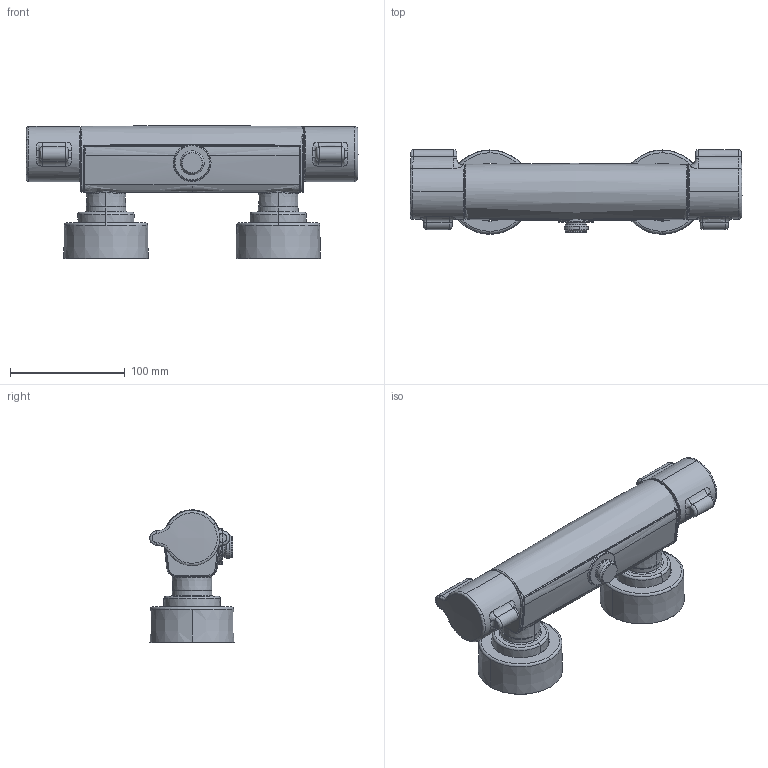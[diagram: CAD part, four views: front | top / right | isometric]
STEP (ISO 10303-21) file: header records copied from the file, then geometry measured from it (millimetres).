
FILE_DESCRIPTION (( 'STEP AP203' ), '1' );
FILE_NAME ('5660(2020).STEP', '2019-07-25T11:30:29', ( '' ), ( '' ), 'SwSTEP 2.0', 'SolidWorks 2016', '' );
FILE_SCHEMA (( 'CONFIG_CONTROL_DESIGN' ));
Length unit declared in the file: millimetre
Products named in the file (1): 5660(2020)
Bounding box: 289.2 x 73.53 x 115.93 mm (x, y, z)
Volume: 503845.9 mm3; surface area: 160524.8 mm2
Topology: 1 solids, 1 shells, 592 faces, 1475 edges, 896 vertices
Faces by surface type: bspline 235, cylinder 172, plane 77, torus 54, cone 38, sphere 16
Entity records: 35731 total; most frequent: CARTESIAN_POINT 23462, ORIENTED_EDGE 2934, DIRECTION 2036, EDGE_CURVE 1467, VERTEX_POINT 896, AXIS2_PLACEMENT_3D 874, EDGE_LOOP 623, B_SPLINE_CURVE_WITH_KNOTS 615
